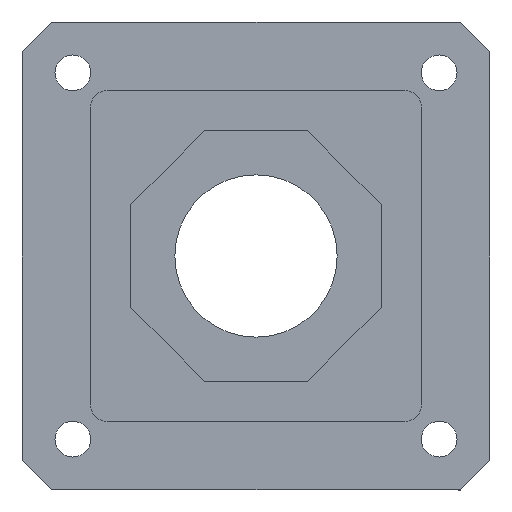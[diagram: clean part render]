
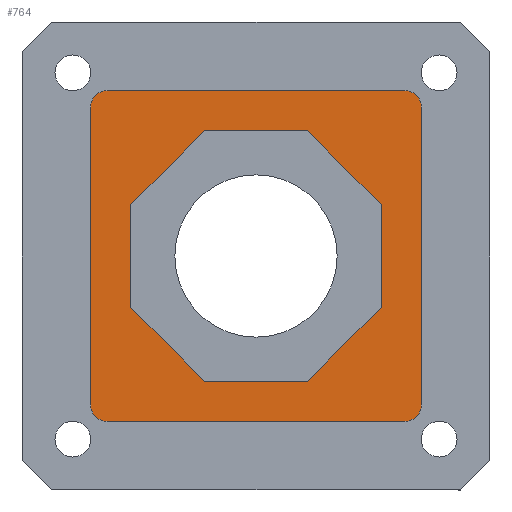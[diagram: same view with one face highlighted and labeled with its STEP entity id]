
A CAD part, front view. The second image highlights one B-rep face of the part: STEP entity #764.
In plain terms, the highlighted planar face has unit normal (0, -1, 0).
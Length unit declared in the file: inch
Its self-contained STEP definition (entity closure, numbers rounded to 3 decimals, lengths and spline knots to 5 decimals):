
#590 = VERTEX_POINT ( 'NONE', #1879 ) ;
#598 = EDGE_CURVE ( 'NONE', #599, #590, #2029, .T. ) ;
#599 = VERTEX_POINT ( 'NONE', #2136 ) ;
#605 = EDGE_CURVE ( 'NONE', #590, #3401, #2133, .T. ) ;
#606 = ORIENTED_EDGE ( 'NONE', *, *, #607, .F. ) ;
#607 = EDGE_CURVE ( 'NONE', #769, #758, #2063, .T. ) ;
#608 = EDGE_LOOP ( 'NONE', ( #609, #610, #611, #612, #733, #734, #735, #736 ) ) ;
#609 = ORIENTED_EDGE ( 'NONE', *, *, #3362, .T. ) ;
#610 = ORIENTED_EDGE ( 'NONE', *, *, #762, .T. ) ;
#611 = ORIENTED_EDGE ( 'NONE', *, *, #834, .T. ) ;
#612 = ORIENTED_EDGE ( 'NONE', *, *, #844, .T. ) ;
#613 = ORIENTED_EDGE ( 'NONE', *, *, #745, .F. ) ;
#733 = ORIENTED_EDGE ( 'NONE', *, *, #598, .T. ) ;
#734 = ORIENTED_EDGE ( 'NONE', *, *, #605, .T. ) ;
#735 = ORIENTED_EDGE ( 'NONE', *, *, #3400, .T. ) ;
#736 = ORIENTED_EDGE ( 'NONE', *, *, #864, .T. ) ;
#745 = EDGE_CURVE ( 'NONE', #746, #772, #2374, .T. ) ;
#746 = VERTEX_POINT ( 'NONE', #2369 ) ;
#747 = ORIENTED_EDGE ( 'NONE', *, *, #748, .F. ) ;
#748 = EDGE_CURVE ( 'NONE', #749, #746, #2370, .T. ) ;
#749 = VERTEX_POINT ( 'NONE', #2298 ) ;
#750 = ORIENTED_EDGE ( 'NONE', *, *, #751, .F. ) ;
#751 = EDGE_CURVE ( 'NONE', #752, #749, #2297, .T. ) ;
#752 = VERTEX_POINT ( 'NONE', #2293 ) ;
#753 = ORIENTED_EDGE ( 'NONE', *, *, #754, .F. ) ;
#754 = EDGE_CURVE ( 'NONE', #755, #752, #2292, .T. ) ;
#755 = VERTEX_POINT ( 'NONE', #2288 ) ;
#756 = ORIENTED_EDGE ( 'NONE', *, *, #757, .F. ) ;
#757 = EDGE_CURVE ( 'NONE', #758, #755, #2287, .T. ) ;
#758 = VERTEX_POINT ( 'NONE', #2283 ) ;
#762 = EDGE_CURVE ( 'NONE', #3360, #835, #2282, .T. ) ;
#764 = ADVANCED_FACE ( 'NONE', ( #2278, #2277 ), #2276, .T. ) ;
#765 = EDGE_LOOP ( 'NONE', ( #766, #770, #613, #747, #750, #753, #756, #606 ) ) ;
#766 = ORIENTED_EDGE ( 'NONE', *, *, #767, .F. ) ;
#767 = EDGE_CURVE ( 'NONE', #768, #769, #2271, .T. ) ;
#768 = VERTEX_POINT ( 'NONE', #2267 ) ;
#769 = VERTEX_POINT ( 'NONE', #2266 ) ;
#770 = ORIENTED_EDGE ( 'NONE', *, *, #771, .F. ) ;
#771 = EDGE_CURVE ( 'NONE', #772, #768, #2265, .T. ) ;
#772 = VERTEX_POINT ( 'NONE', #2261 ) ;
#834 = EDGE_CURVE ( 'NONE', #835, #845, #2250, .T. ) ;
#835 = VERTEX_POINT ( 'NONE', #2246 ) ;
#844 = EDGE_CURVE ( 'NONE', #845, #599, #2323, .T. ) ;
#845 = VERTEX_POINT ( 'NONE', #2319 ) ;
#864 = EDGE_CURVE ( 'NONE', #865, #3363, #2340, .T. ) ;
#865 = VERTEX_POINT ( 'NONE', #2336 ) ;
#1879 = CARTESIAN_POINT ( 'NONE',  ( 1.6, 0.075, -1.44 ) ) ;
#1928 = DIRECTION ( 'NONE',  ( 0., 0., -1. ) ) ;
#1929 = DIRECTION ( 'NONE',  ( 0., -1., 0. ) ) ;
#1930 = CARTESIAN_POINT ( 'NONE',  ( 1.44, 0.075, -1.44 ) ) ;
#1931 = AXIS2_PLACEMENT_3D ( 'NONE', #1930, #1929, #1928 ) ;
#2029 = CIRCLE ( 'NONE', #1931, 0.16 ) ;
#2060 = DIRECTION ( 'NONE',  ( 0., 0., -1. ) ) ;
#2061 = VECTOR ( 'NONE', #2060, 39.37008 ) ;
#2062 = CARTESIAN_POINT ( 'NONE',  ( -1.21, 0.075, -0.5012 ) ) ;
#2063 = LINE ( 'NONE', #2062, #2061 ) ;
#2064 = DIRECTION ( 'NONE',  ( 0., 0., 1. ) ) ;
#2131 = VECTOR ( 'NONE', #2064, 39.37008 ) ;
#2132 = CARTESIAN_POINT ( 'NONE',  ( 1.6, 0.075, -1.44 ) ) ;
#2133 = LINE ( 'NONE', #2132, #2131 ) ;
#2136 = CARTESIAN_POINT ( 'NONE',  ( 1.44, 0.075, -1.6 ) ) ;
#2176 = CARTESIAN_POINT ( 'NONE',  ( -1.44, 0.075, -1.44 ) ) ;
#2246 = CARTESIAN_POINT ( 'NONE',  ( -1.6, 0.075, -1.44 ) ) ;
#2247 = DIRECTION ( 'NONE',  ( 0., 0., 1. ) ) ;
#2248 = DIRECTION ( 'NONE',  ( 0., -1., 0. ) ) ;
#2249 = AXIS2_PLACEMENT_3D ( 'NONE', #2176, #2248, #2247 ) ;
#2250 = CIRCLE ( 'NONE', #2249, 0.16 ) ;
#2261 = CARTESIAN_POINT ( 'NONE',  ( 0.5012, 0.075, 1.21 ) ) ;
#2262 = DIRECTION ( 'NONE',  ( -1., 0., 0. ) ) ;
#2263 = VECTOR ( 'NONE', #2262, 39.37008 ) ;
#2264 = CARTESIAN_POINT ( 'NONE',  ( 0.5012, 0.075, 1.21 ) ) ;
#2265 = LINE ( 'NONE', #2264, #2263 ) ;
#2266 = CARTESIAN_POINT ( 'NONE',  ( -1.21, 0.075, 0.5012 ) ) ;
#2267 = CARTESIAN_POINT ( 'NONE',  ( -0.5012, 0.075, 1.21 ) ) ;
#2268 = DIRECTION ( 'NONE',  ( -0.707, 0., -0.707 ) ) ;
#2269 = VECTOR ( 'NONE', #2268, 39.37008 ) ;
#2270 = CARTESIAN_POINT ( 'NONE',  ( -1.21, 0.075, 0.5012 ) ) ;
#2271 = LINE ( 'NONE', #2270, #2269 ) ;
#2272 = DIRECTION ( 'NONE',  ( 0., 0., -1. ) ) ;
#2273 = DIRECTION ( 'NONE',  ( 0., -1., 0. ) ) ;
#2274 = CARTESIAN_POINT ( 'NONE',  ( -1.44, 0.075, 1.44 ) ) ;
#2275 = AXIS2_PLACEMENT_3D ( 'NONE', #2274, #2273, #2272 ) ;
#2276 = PLANE ( 'NONE',  #2275 ) ;
#2277 = FACE_OUTER_BOUND ( 'NONE', #608, .T. ) ;
#2278 = FACE_BOUND ( 'NONE', #765, .T. ) ;
#2279 = DIRECTION ( 'NONE',  ( 0., 0., -1. ) ) ;
#2280 = VECTOR ( 'NONE', #2279, 39.37008 ) ;
#2281 = CARTESIAN_POINT ( 'NONE',  ( -1.6, 0.075, -1.44 ) ) ;
#2282 = LINE ( 'NONE', #2281, #2280 ) ;
#2283 = CARTESIAN_POINT ( 'NONE',  ( -1.21, 0.075, -0.5012 ) ) ;
#2284 = DIRECTION ( 'NONE',  ( 0.707, 0., -0.707 ) ) ;
#2285 = VECTOR ( 'NONE', #2284, 39.37008 ) ;
#2286 = CARTESIAN_POINT ( 'NONE',  ( -1.21, 0.075, -0.5012 ) ) ;
#2287 = LINE ( 'NONE', #2286, #2285 ) ;
#2288 = CARTESIAN_POINT ( 'NONE',  ( -0.5012, 0.075, -1.21 ) ) ;
#2289 = DIRECTION ( 'NONE',  ( 1., 0., 0. ) ) ;
#2290 = VECTOR ( 'NONE', #2289, 39.37008 ) ;
#2291 = CARTESIAN_POINT ( 'NONE',  ( 0.5012, 0.075, -1.21 ) ) ;
#2292 = LINE ( 'NONE', #2291, #2290 ) ;
#2293 = CARTESIAN_POINT ( 'NONE',  ( 0.5012, 0.075, -1.21 ) ) ;
#2294 = DIRECTION ( 'NONE',  ( 0.707, 0., 0.707 ) ) ;
#2295 = VECTOR ( 'NONE', #2294, 39.37008 ) ;
#2296 = CARTESIAN_POINT ( 'NONE',  ( 1.21, 0.075, -0.5012 ) ) ;
#2297 = LINE ( 'NONE', #2296, #2295 ) ;
#2298 = CARTESIAN_POINT ( 'NONE',  ( 1.21, 0.075, -0.5012 ) ) ;
#2299 = DIRECTION ( 'NONE',  ( 0., 0., 1. ) ) ;
#2300 = VECTOR ( 'NONE', #2299, 39.37008 ) ;
#2301 = CARTESIAN_POINT ( 'NONE',  ( 1.21, 0.075, -0.5012 ) ) ;
#2319 = CARTESIAN_POINT ( 'NONE',  ( -1.44, 0.075, -1.6 ) ) ;
#2320 = DIRECTION ( 'NONE',  ( 1., 0., 0. ) ) ;
#2321 = VECTOR ( 'NONE', #2320, 39.37008 ) ;
#2322 = CARTESIAN_POINT ( 'NONE',  ( 1.44, 0.075, -1.6 ) ) ;
#2323 = LINE ( 'NONE', #2322, #2321 ) ;
#2336 = CARTESIAN_POINT ( 'NONE',  ( 1.44, 0.075, 1.6 ) ) ;
#2337 = DIRECTION ( 'NONE',  ( -1., 0., 0. ) ) ;
#2338 = VECTOR ( 'NONE', #2337, 39.37008 ) ;
#2339 = CARTESIAN_POINT ( 'NONE',  ( 1.44, 0.075, 1.6 ) ) ;
#2340 = LINE ( 'NONE', #2339, #2338 ) ;
#2369 = CARTESIAN_POINT ( 'NONE',  ( 1.21, 0.075, 0.5012 ) ) ;
#2370 = LINE ( 'NONE', #2301, #2300 ) ;
#2371 = DIRECTION ( 'NONE',  ( -0.707, 0., 0.707 ) ) ;
#2372 = VECTOR ( 'NONE', #2371, 39.37008 ) ;
#2373 = CARTESIAN_POINT ( 'NONE',  ( 1.21, 0.075, 0.5012 ) ) ;
#2374 = LINE ( 'NONE', #2373, #2372 ) ;
#2778 = CARTESIAN_POINT ( 'NONE',  ( -1.6, 0.075, 1.44 ) ) ;
#2817 = CARTESIAN_POINT ( 'NONE',  ( -1.44, 0.075, 1.6 ) ) ;
#2818 = DIRECTION ( 'NONE',  ( 0., 0., -1. ) ) ;
#2819 = DIRECTION ( 'NONE',  ( 0., -1., 0. ) ) ;
#2820 = CARTESIAN_POINT ( 'NONE',  ( -1.44, 0.075, 1.44 ) ) ;
#2821 = AXIS2_PLACEMENT_3D ( 'NONE', #2820, #2819, #2818 ) ;
#2822 = CIRCLE ( 'NONE', #2821, 0.16 ) ;
#2992 = CARTESIAN_POINT ( 'NONE',  ( 1.6, 0.075, 1.44 ) ) ;
#2993 = DIRECTION ( 'NONE',  ( 0., 0., -1. ) ) ;
#2994 = DIRECTION ( 'NONE',  ( 0., -1., 0. ) ) ;
#2995 = AXIS2_PLACEMENT_3D ( 'NONE', #3002, #2994, #2993 ) ;
#2996 = CIRCLE ( 'NONE', #2995, 0.16 ) ;
#3002 = CARTESIAN_POINT ( 'NONE',  ( 1.44, 0.075, 1.44 ) ) ;
#3360 = VERTEX_POINT ( 'NONE', #2778 ) ;
#3362 = EDGE_CURVE ( 'NONE', #3363, #3360, #2822, .T. ) ;
#3363 = VERTEX_POINT ( 'NONE', #2817 ) ;
#3400 = EDGE_CURVE ( 'NONE', #3401, #865, #2996, .T. ) ;
#3401 = VERTEX_POINT ( 'NONE', #2992 ) ;
